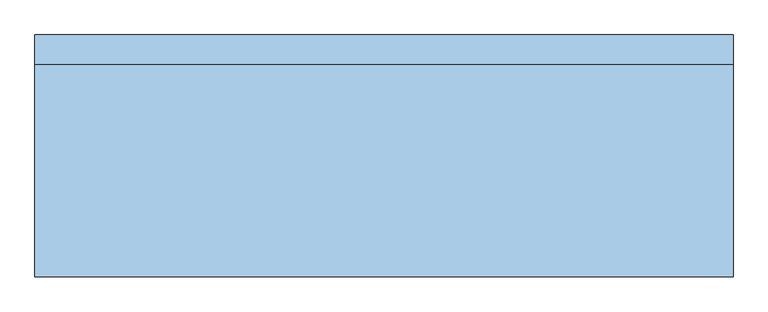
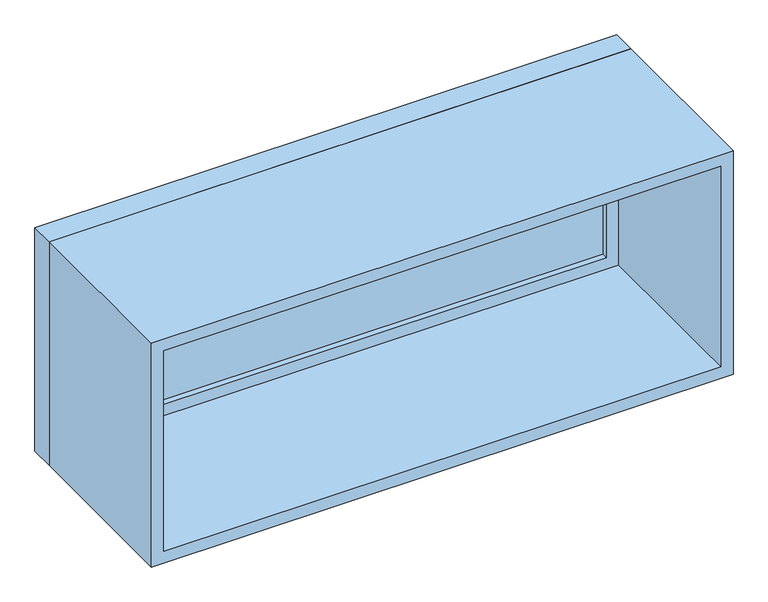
"""IFC4 building model written with IfcOpenShell, lengths in millimetres: window geometry, M_Неподвижный : 0915 x 0610 мм."""

from ifc_helpers import new_model, si_unit, frame, origin, place, context, project, spatial, polyline, outline, extrude, source, transform, mapped, element, save


def window_ca35e3a4(model_context):
    return source(origin(), model_context, "Body", "SweptSolid", [
        extrude(outline(polyline([(-687.0, 238.0), (687.0, 238.0), (687.0, 226.0), (-687.0, 226.0), (-687.0, 238.0)])), frame((0.0, 0.0, 978.0), z_axis=(0.0, 0.0, 1.0), x_axis=(1.0, 0.0, 0.0)), (0.0, 0.0, 1.0), 484.0),
        extrude(outline(polyline([(1506.0, -731.0), (934.0, -731.0), (934.0, 731.0), (1506.0, 731.0), (1506.0, -731.0)]), holes=[polyline([(1462.0, -687.0), (1462.0, 687.0), (978.0, 687.0), (978.0, -687.0), (1462.0, -687.0)])]), frame((0.0, 210.0, 0.0), z_axis=(0.0, 1.0, 0.0), x_axis=(0.0, 0.0, 1.0)), (0.0, 0.0, 1.0), 44.0),
        extrude(outline(polyline([(1525.0, -750.0), (915.0, -750.0), (915.0, 750.0), (1525.0, 750.0), (1525.0, -750.0)]), holes=[polyline([(1506.0, -731.0), (1506.0, 731.0), (934.0, 731.0), (934.0, -731.0), (1506.0, -731.0)])]), frame((0.0, 210.0, 0.0), z_axis=(0.0, 1.0, 0.0), x_axis=(0.0, 0.0, 1.0)), (0.0, 0.0, 1.0), 63.0),
        extrude(outline(polyline([(1525.0, -750.0), (915.0, -750.0), (915.0, 750.0), (1525.0, 750.0), (1525.0, -750.0)]), holes=[polyline([(1493.0, -718.0), (1493.0, 718.0), (947.0, 718.0), (947.0, -718.0), (1493.0, -718.0)])]), frame((0.0, -247.0, 0.0), z_axis=(0.0, 1.0, 0.0), x_axis=(0.0, 0.0, 1.0)), (0.0, 0.0, 1.0), 457.0),
    ])


if __name__ == "__main__":
    model = new_model("IFC4")
    model_context = context("Model", 3, world=origin())
    ifc_project = project(units=[si_unit("LENGTHUNIT", "METRE", prefix="MILLI")], contexts=[model_context])
    site = spatial("IfcSite", under=ifc_project)
    building = spatial("IfcBuilding", under=site)
    placement = place(None, origin())
    window_shape = window_ca35e3a4(model_context)
    element("IfcWindow", 1, ObjectType="M_Неподвижный : 0915 x 0610 мм", at=placement, inside=building, context=model_context, shape_type="MappedRepresentation", body=[
        mapped(window_shape, transform((0.0, 0.0, 0.0), x_axis=(1.0, 0.0, 0.0), y_axis=(0.0, 1.0, 0.0), z_axis=(0.0, 0.0, 1.0))),
    ])
    save(model, "model.ifc")
